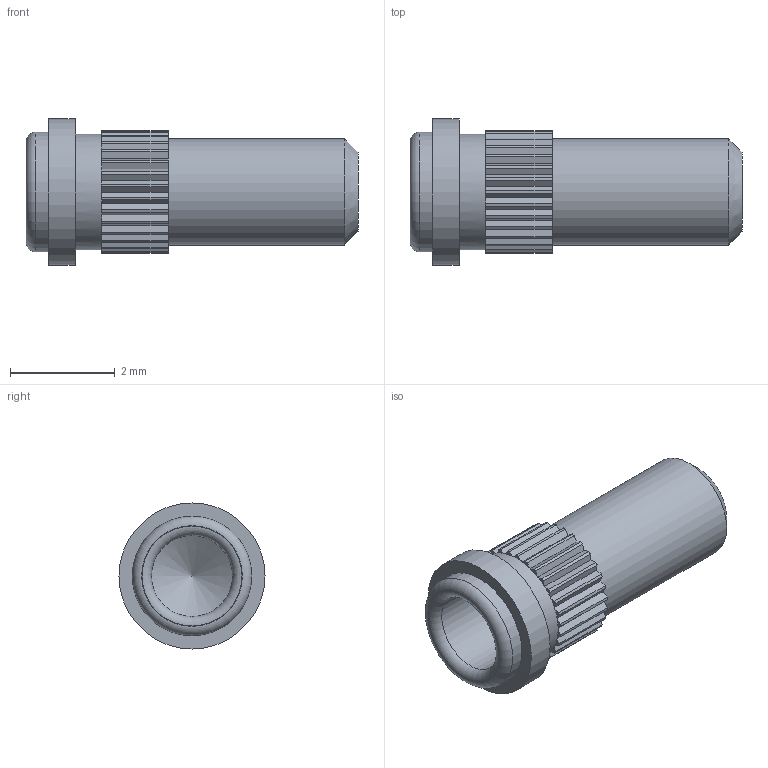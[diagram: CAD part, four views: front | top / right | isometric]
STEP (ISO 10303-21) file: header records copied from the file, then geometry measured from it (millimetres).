
FILE_DESCRIPTION(/* description */ (''),/* implementation_level */ '2;1');
FILE_NAME(/* name */ '\\Snap1\dwgs\Customer 3D Models\450\450-3721 Customer model.stp',/* time_stamp */ '2016-12-20T16:05:52+00:00',/* author */ ('paulk'),/* organization */ (''),/* preprocessor_version */ 'ST-DEVELOPER v15.2',/* originating_system */ 'Autodesk Inventor 2014',/* authorisation */ '');
FILE_SCHEMA (('CONFIG_CONTROL_DESIGN'));
Length unit declared in the file: millimetre
Products named in the file (1): 450-3721 Customer model
Bounding box: 6.35 x 2.79 x 2.79 mm (x, y, z)
Volume: 14.1 mm3; surface area: 81.3 mm2
Topology: 1 solids, 1 shells, 164 faces, 413 edges, 254 vertices
Faces by surface type: plane 125, cylinder 35, torus 2, cone 2
Full cylindrical faces by diameter (mm): 1.55 x1, 2.032 x1, 2.21 x1, 2.286 x1, 2.794 x1
Entity records: 4815 total; most frequent: DIRECTION 864, CARTESIAN_POINT 819, ORIENTED_EDGE 804, EDGE_CURVE 402, AXIS2_PLACEMENT_3D 297, LINE 270, VECTOR 270, VERTEX_POINT 252
